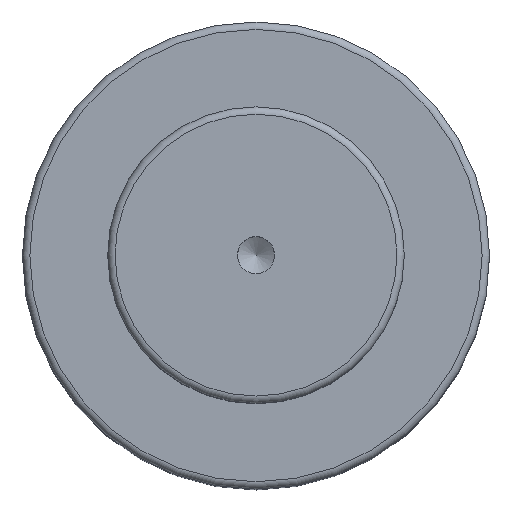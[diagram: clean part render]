
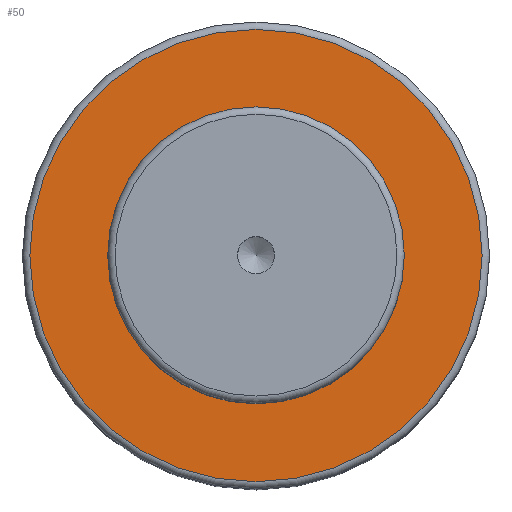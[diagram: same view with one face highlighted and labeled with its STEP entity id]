
A CAD part, top view. The second image highlights one B-rep face of the part: STEP entity #50.
In plain terms, the highlighted planar face has unit normal (0, 0, 1).
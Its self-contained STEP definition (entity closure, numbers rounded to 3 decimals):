
#40=PLANE('',#179);
#50=ADVANCED_FACE('',(#72,#73),#40,.F.);
#72=FACE_BOUND('',#96,.T.);
#73=FACE_BOUND('',#97,.T.);
#96=EDGE_LOOP('',(#118));
#97=EDGE_LOOP('',(#119));
#118=ORIENTED_EDGE('',*,*,#149,.F.);
#119=ORIENTED_EDGE('',*,*,#148,.T.);
#135=VERTEX_POINT('',#256);
#136=VERTEX_POINT('',#259);
#148=EDGE_CURVE('',#135,#135,#159,.T.);
#149=EDGE_CURVE('',#136,#136,#160,.T.);
#159=CIRCLE('',#176,20.);
#160=CIRCLE('',#178,30.5);
#176=AXIS2_PLACEMENT_3D('',#255,#213,#214);
#178=AXIS2_PLACEMENT_3D('',#258,#217,#218);
#179=AXIS2_PLACEMENT_3D('',#260,#219,#220);
#213=DIRECTION('',(0.,0.,-1.));
#214=DIRECTION('',(-1.,0.,0.));
#217=DIRECTION('',(0.,0.,-1.));
#218=DIRECTION('',(-1.,0.,0.));
#219=DIRECTION('',(0.,0.,-1.));
#220=DIRECTION('',(-1.,0.,0.));
#255=CARTESIAN_POINT('',(0.,0.,66.));
#256=CARTESIAN_POINT('',(-20.,0.,66.));
#258=CARTESIAN_POINT('',(0.,0.,66.));
#259=CARTESIAN_POINT('',(-30.5,0.,66.));
#260=CARTESIAN_POINT('',(20.,0.,66.));
